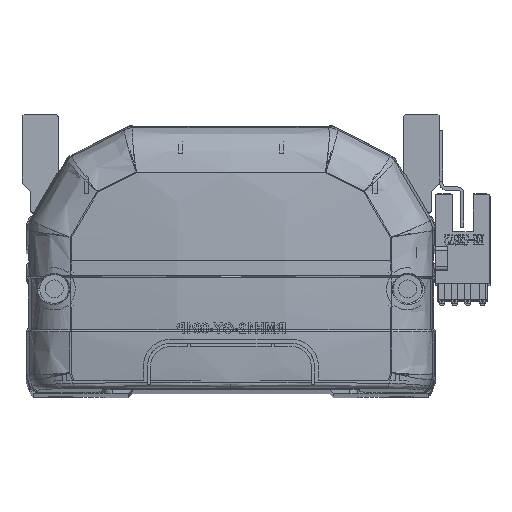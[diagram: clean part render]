
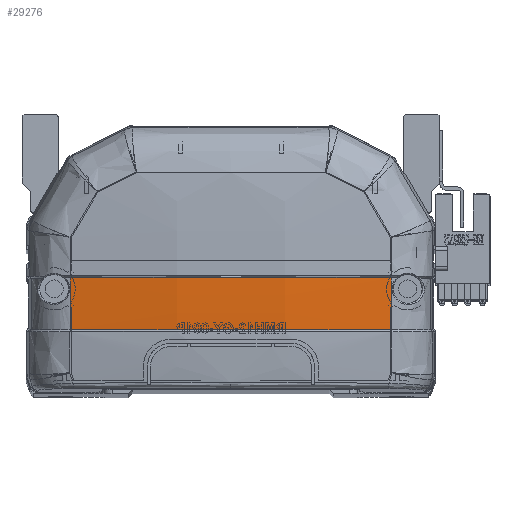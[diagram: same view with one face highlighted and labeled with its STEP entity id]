
A CAD part, top view. The second image highlights one B-rep face of the part: STEP entity #29276.
In plain terms, the highlighted free-form (B-spline) face has degree [3, 3] with [4, 4] control points.
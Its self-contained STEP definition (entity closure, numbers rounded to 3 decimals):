
#1142 = CARTESIAN_POINT ( 'NONE',  ( -39.966, 24.412, -6.306 ) ) ;
#1684 = CARTESIAN_POINT ( 'NONE',  ( 40.461, 15.757, -5.8 ) ) ;
#1817 = CARTESIAN_POINT ( 'NONE',  ( 39.963, 28.706, -6.372 ) ) ;
#1912 = ORIENTED_EDGE ( 'NONE', *, *, #21149, .T. ) ;
#1997 = CARTESIAN_POINT ( 'NONE',  ( 13.598, 24.342, -10.47 ) ) ;
#2882 = ORIENTED_EDGE ( 'NONE', *, *, #30571, .F. ) ;
#3131 = CARTESIAN_POINT ( 'NONE',  ( -39.985, 15.83, -5.879 ) ) ;
#5627 = B_SPLINE_CURVE_WITH_KNOTS ( 'NONE', 3,
 ( #11391, #10914, #18897, #44904, #14506, #38062 ),
 .UNSPECIFIED., .F., .F.,
 ( 4, 2, 4 ),
 ( 0., 0.5, 1. ),
 .UNSPECIFIED. ) ;
#6373 = CARTESIAN_POINT ( 'NONE',  ( -40.461, 28.832, -6.296 ) ) ;
#7037 = CARTESIAN_POINT ( 'NONE',  ( 26.761, 15.83, -7.945 ) ) ;
#8535 = EDGE_CURVE ( 'NONE', #30471, #26534, #23292, .T. ) ;
#9592 = VERTEX_POINT ( 'NONE', #26608 ) ;
#10347 = CARTESIAN_POINT ( 'NONE',  ( -36.679, 15.83, -6.395 ) ) ;
#10914 = CARTESIAN_POINT ( 'NONE',  ( -26.748, 28.706, -8.432 ) ) ;
#11391 = CARTESIAN_POINT ( 'NONE',  ( -39.963, 28.706, -6.372 ) ) ;
#12380 = CARTESIAN_POINT ( 'NONE',  ( -39.985, 15.83, -5.879 ) ) ;
#13443 = CARTESIAN_POINT ( 'NONE',  ( 40.461, 24.47, -6.231 ) ) ;
#14423 = CARTESIAN_POINT ( 'NONE',  ( -33.365, 15.83, -6.848 ) ) ;
#14506 = CARTESIAN_POINT ( 'NONE',  ( 26.749, 28.706, -8.432 ) ) ;
#15620 = ORIENTED_EDGE ( 'NONE', *, *, #8535, .T. ) ;
#16870 = CARTESIAN_POINT ( 'NONE',  ( 40.461, 28.832, -6.296 ) ) ;
#17704 = CARTESIAN_POINT ( 'NONE',  ( 39.985, 15.83, -5.879 ) ) ;
#17863 = CARTESIAN_POINT ( 'NONE',  ( -23.389, 15.83, -7.947 ) ) ;
#18897 = CARTESIAN_POINT ( 'NONE',  ( -13.373, 28.707, -9.468 ) ) ;
#19073 = CARTESIAN_POINT ( 'NONE',  ( -39.985, 15.83, -5.879 ) ) ;
#19420 = CARTESIAN_POINT ( 'NONE',  ( -39.973, 20.118, -6.142 ) ) ;
#19780 = EDGE_CURVE ( 'NONE', #30471, #22286, #35065, .T. ) ;
#20149 = CARTESIAN_POINT ( 'NONE',  ( -40.461, 20.111, -6.066 ) ) ;
#20593 = CARTESIAN_POINT ( 'NONE',  ( 39.973, 20.12, -6.142 ) ) ;
#20784 = CARTESIAN_POINT ( 'NONE',  ( 13.598, 28.769, -10.535 ) ) ;
#21149 = EDGE_CURVE ( 'NONE', #9592, #22286, #28881, .T. ) ;
#22234 = FACE_OUTER_BOUND ( 'NONE', #23588, .T. ) ;
#22286 = VERTEX_POINT ( 'NONE', #19073 ) ;
#22329 = ORIENTED_EDGE ( 'NONE', *, *, #19780, .F. ) ;
#23292 = B_SPLINE_CURVE_WITH_KNOTS ( 'NONE', 3,
 ( #31627, #20593, #28540, #1817 ),
 .UNSPECIFIED., .F., .F.,
 ( 4, 4 ),
 ( 0., 1. ),
 .UNSPECIFIED. ) ;
#23588 = EDGE_LOOP ( 'NONE', ( #15620, #2882, #1912, #22329 ) ) ;
#24136 =( BOUNDED_SURFACE ( )  B_SPLINE_SURFACE ( 3, 3, ( 
 ( #1684, #42397, #13443, #16870 ),
 ( #43058, #38818, #1997, #20784 ),
 ( #27746, #46626, #46794, #24487 ),
 ( #28233, #20149, #47284, #6373 ) ),
 .UNSPECIFIED., .F., .F., .F. ) 
 B_SPLINE_SURFACE_WITH_KNOTS ( ( 4, 4 ),
 ( 4, 4 ),
 ( 0., 1. ),
 ( 0., 1. ),
 .UNSPECIFIED. ) 
 GEOMETRIC_REPRESENTATION_ITEM ( )  RATIONAL_B_SPLINE_SURFACE ( (
 ( 1., 1., 1., 1.),
 ( 0.992, 0.992, 0.992, 0.992),
 ( 0.992, 0.992, 0.992, 0.992),
 ( 1., 1., 1., 1.) ) ) 
 REPRESENTATION_ITEM ( '' )  SURFACE ( )  );
#24487 = CARTESIAN_POINT ( 'NONE',  ( -13.598, 28.769, -10.535 ) ) ;
#26534 = VERTEX_POINT ( 'NONE', #27180 ) ;
#26608 = CARTESIAN_POINT ( 'NONE',  ( -39.963, 28.706, -6.372 ) ) ;
#27180 = CARTESIAN_POINT ( 'NONE',  ( 39.963, 28.706, -6.372 ) ) ;
#27746 = CARTESIAN_POINT ( 'NONE',  ( -13.598, 15.499, -10.032 ) ) ;
#28233 = CARTESIAN_POINT ( 'NONE',  ( -40.461, 15.757, -5.8 ) ) ;
#28540 = CARTESIAN_POINT ( 'NONE',  ( 39.966, 24.413, -6.306 ) ) ;
#28881 = B_SPLINE_CURVE_WITH_KNOTS ( 'NONE', 3,
 ( #30770, #1142, #19420, #12380 ),
 .UNSPECIFIED., .F., .F.,
 ( 4, 4 ),
 ( 0., 1. ),
 .UNSPECIFIED. ) ;
#29276 = ADVANCED_FACE ( 'NONE', ( #22234 ), #24136, .F. ) ;
#30471 = VERTEX_POINT ( 'NONE', #44429 ) ;
#30571 = EDGE_CURVE ( 'NONE', #9592, #26534, #5627, .T. ) ;
#30770 = CARTESIAN_POINT ( 'NONE',  ( -39.963, 28.706, -6.372 ) ) ;
#31627 = CARTESIAN_POINT ( 'NONE',  ( 39.985, 15.83, -5.879 ) ) ;
#32809 = CARTESIAN_POINT ( 'NONE',  ( -13.384, 15.83, -8.724 ) ) ;
#35065 = B_SPLINE_CURVE_WITH_KNOTS ( 'NONE', 3,
 ( #17704, #7037, #36849, #40128, #32809, #17863, #47784, #14423, #10347, #3131 ),
 .UNSPECIFIED., .F., .F.,
 ( 4, 2, 2, 2, 4 ),
 ( 0., 0.04, 0.06, 0.07, 0.08 ),
 .UNSPECIFIED. ) ;
#36849 = CARTESIAN_POINT ( 'NONE',  ( 13.38, 15.83, -8.984 ) ) ;
#38062 = CARTESIAN_POINT ( 'NONE',  ( 39.963, 28.706, -6.372 ) ) ;
#38818 = CARTESIAN_POINT ( 'NONE',  ( 13.598, 19.918, -10.302 ) ) ;
#40128 = CARTESIAN_POINT ( 'NONE',  ( -6.692, 15.83, -8.984 ) ) ;
#42397 = CARTESIAN_POINT ( 'NONE',  ( 40.461, 20.111, -6.066 ) ) ;
#43058 = CARTESIAN_POINT ( 'NONE',  ( 13.598, 15.499, -10.032 ) ) ;
#44429 = CARTESIAN_POINT ( 'NONE',  ( 39.985, 15.83, -5.879 ) ) ;
#44904 = CARTESIAN_POINT ( 'NONE',  ( 13.375, 28.707, -9.468 ) ) ;
#46626 = CARTESIAN_POINT ( 'NONE',  ( -13.598, 19.918, -10.302 ) ) ;
#46794 = CARTESIAN_POINT ( 'NONE',  ( -13.598, 24.342, -10.47 ) ) ;
#47284 = CARTESIAN_POINT ( 'NONE',  ( -40.461, 24.47, -6.231 ) ) ;
#47784 = CARTESIAN_POINT ( 'NONE',  ( -26.721, 15.83, -7.624 ) ) ;
